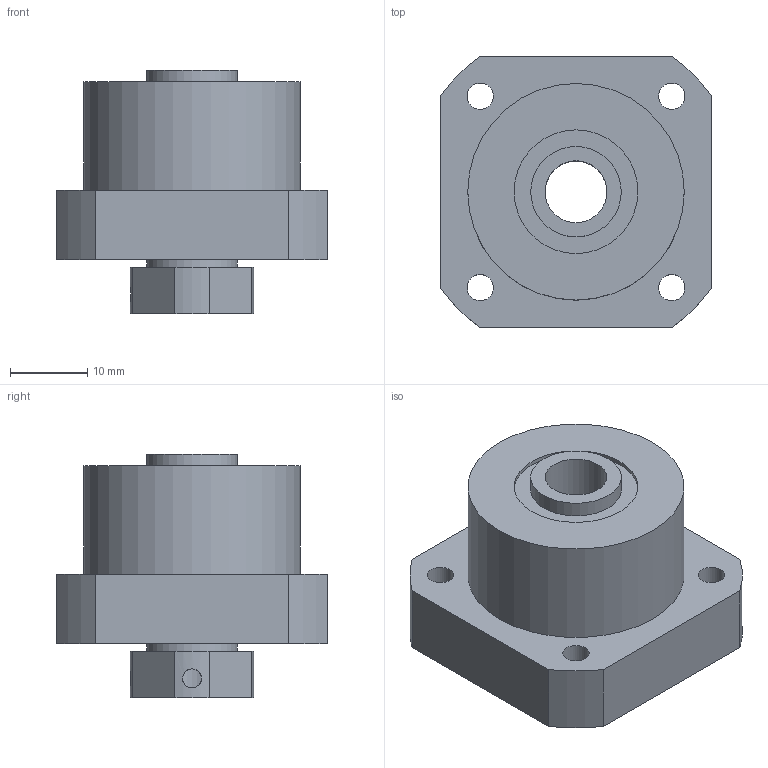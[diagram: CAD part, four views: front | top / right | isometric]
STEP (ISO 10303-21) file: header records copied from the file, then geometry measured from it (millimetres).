
FILE_DESCRIPTION(/* description */ (''),/* implementation_level */ '2;1');
FILE_NAME(/* name */ 'C:\Users\tenki620635\Desktop\官網\圖面\軸承座\3D\setp檔\FK08-Atype.stp',/* time_stamp */ '2020-12-18T19:56:13+08:00',/* author */ ('tenki620635'),/* organization */ (''),/* preprocessor_version */ 'ST-DEVELOPER v15.2',/* originating_system */ 'Autodesk Inventor 2014',/* authorisation */ '');
FILE_SCHEMA (('AUTOMOTIVE_DESIGN { 1 0 10303 214 3 1 1 }'));
Length unit declared in the file: millimetre
Products named in the file (1): FK08-Atype
Bounding box: 35 x 35 x 31.5 mm (x, y, z)
Volume: 18212.5 mm3; surface area: 6524.1 mm2
Topology: 1 solids, 1 shells, 42 faces, 97 edges, 66 vertices
Faces by surface type: cylinder 23, plane 19
Full cylindrical faces by diameter (mm): 2.459 x2, 3.4 x4, 6.5 x4, 8 x1, 11.7 x2, 16 x1, 28 x1
Entity records: 1295 total; most frequent: CARTESIAN_POINT 323, DIRECTION 202, ORIENTED_EDGE 160, AXIS2_PLACEMENT_3D 85, EDGE_LOOP 80, EDGE_CURVE 80, VERTEX_POINT 64, FACE_BOUND 46
